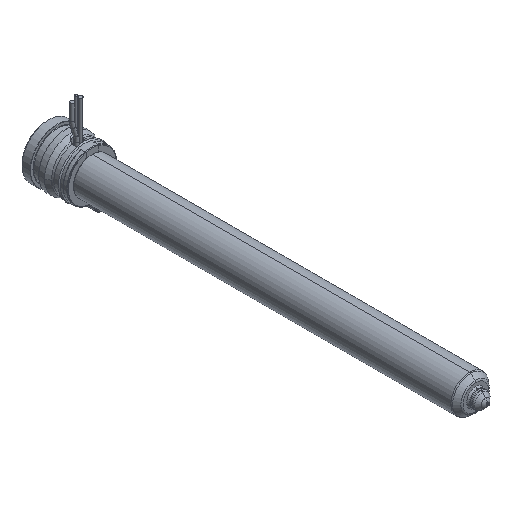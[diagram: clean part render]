
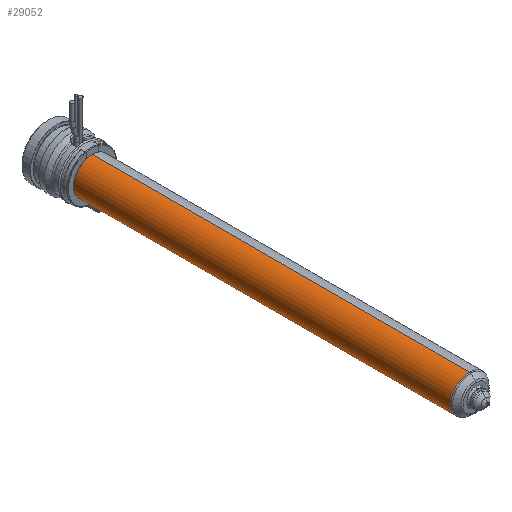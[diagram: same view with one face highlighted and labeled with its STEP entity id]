
A CAD part, isometric view. The second image highlights one B-rep face of the part: STEP entity #29052.
In plain terms, the highlighted cylindrical face has radius 9 mm (diameter 18 mm), a partial arc.
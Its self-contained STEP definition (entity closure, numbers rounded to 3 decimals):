
#28443=CARTESIAN_POINT('',(0.,-205.836,0.));
#28444=DIRECTION('',(0.,-1.,0.));
#28445=DIRECTION('',(0.,0.,1.));
#28446=AXIS2_PLACEMENT_3D('',#28443,#28444,#28445);
#28451=CARTESIAN_POINT('',(0.,-22.,0.));
#28452=DIRECTION('',(0.,-1.,0.));
#28453=DIRECTION('',(0.,0.,1.));
#28454=AXIS2_PLACEMENT_3D('',#28451,#28452,#28453);
#28459=DIRECTION('',(0.,-1.,0.));
#28460=VECTOR('',#28459,183.836);
#28461=CARTESIAN_POINT('',(0.,-22.,9.));
#28462=LINE('',#28461,#28460);
#28474=DIRECTION('',(0.,-1.,0.));
#28475=VECTOR('',#28474,183.836);
#28476=CARTESIAN_POINT('',(0.,-22.,-9.));
#28477=LINE('',#28476,#28475);
#28669=CARTESIAN_POINT('',(0.,-22.,9.));
#28670=CARTESIAN_POINT('',(0.,-205.836,9.));
#28671=VERTEX_POINT('',#28669);
#28672=VERTEX_POINT('',#28670);
#28695=CARTESIAN_POINT('',(0.,-22.,-9.));
#28696=CARTESIAN_POINT('',(0.,-205.836,-9.));
#28697=VERTEX_POINT('',#28695);
#28698=VERTEX_POINT('',#28696);
#29038=CARTESIAN_POINT('',(0.,-8.125,0.));
#29039=DIRECTION('',(0.,-1.,0.));
#29040=DIRECTION('',(0.,0.,1.));
#29041=AXIS2_PLACEMENT_3D('',#29038,#29039,#29040);
#29042=CYLINDRICAL_SURFACE('',#29041,9.);
#29044=ORIENTED_EDGE('',*,*,#29043,.T.);
#29045=ORIENTED_EDGE('',*,*,#29033,.T.);
#29047=ORIENTED_EDGE('',*,*,#29046,.F.);
#29049=ORIENTED_EDGE('',*,*,#29048,.F.);
#29050=EDGE_LOOP('',(#29044,#29045,#29047,#29049));
#29051=FACE_OUTER_BOUND('',#29050,.F.);
#29052=ADVANCED_FACE('',(#29051),#29042,.T.);
#28447=CIRCLE('',#28446,9.);
#28455=CIRCLE('',#28454,9.);
#29033=EDGE_CURVE('',#28672,#28698,#28447,.T.);
#29043=EDGE_CURVE('',#28671,#28672,#28462,.T.);
#29046=EDGE_CURVE('',#28697,#28698,#28477,.T.);
#29048=EDGE_CURVE('',#28671,#28697,#28455,.T.);
